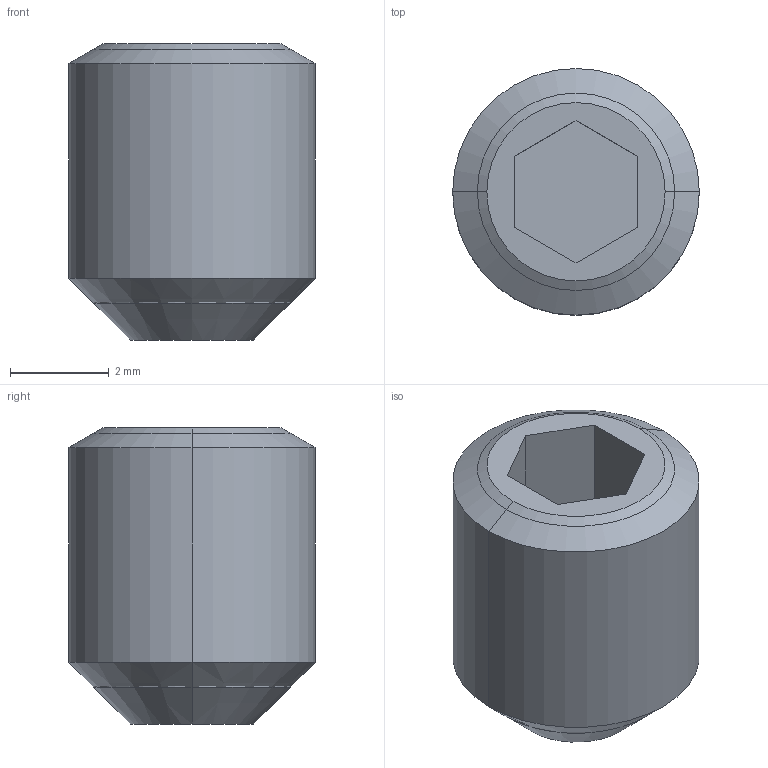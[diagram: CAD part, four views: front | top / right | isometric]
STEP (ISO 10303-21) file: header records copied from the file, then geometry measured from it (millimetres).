
FILE_DESCRIPTION((''),'2;1');
FILE_NAME('GEWINDESTIFT_DIN916_M5X6_','2022-06-13T16:11:32',('H041970'),(''),'CREO PARAMETRIC BY PTC INC, 2021284','CREO PARAMETRIC BY PTC INC, 2021284','');
FILE_SCHEMA(('CONFIG_CONTROL_DESIGN'));
Length unit declared in the file: millimetre
Products named in the file (1): GEWINDESTIFT_DIN916_M5X6_
Bounding box: 5 x 5 x 6 mm (x, y, z)
Volume: 89.4 mm3; surface area: 205.7 mm2
Topology: 1 solids, 2 shells, 17 faces, 41 edges, 30 vertices
Faces by surface type: plane 9, cone 4, cylinder 4
Entity records: 534 total; most frequent: DIRECTION 89, CARTESIAN_POINT 83, ORIENTED_EDGE 72, EDGE_CURVE 38, AXIS2_PLACEMENT_3D 30, VECTOR 29, LINE 29, VERTEX_POINT 24
